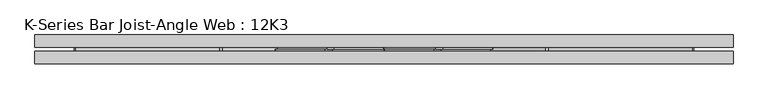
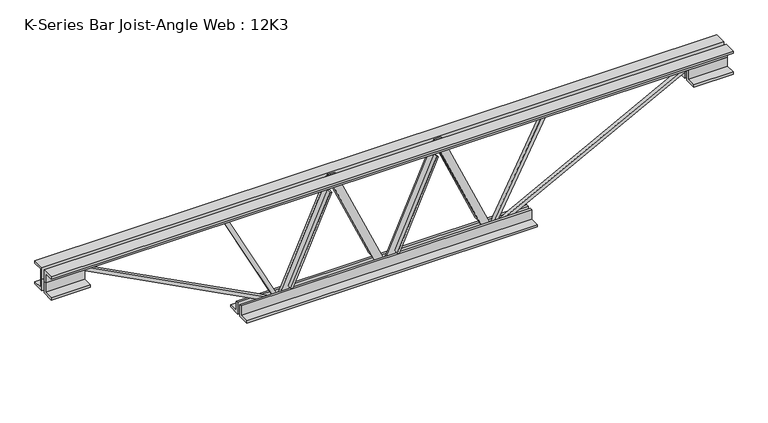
"""IFC4 building model written with IfcOpenShell, lengths in millimetres: beam geometry, K-Series Bar Joist-Angle Web : 12K3."""

from ifc_helpers import new_model, si_unit, frame, origin, place, context, project, spatial, polyline, outline, extrude, faceted_brep, source, transform, mapped, element, save


def k_series_bar_joist_angle_web_12k3_ae5ab345(model_context):
    return source(origin(), model_context, "Body", "SolidModel", [
        extrude(outline(polyline([(-4.7625, 4.7625), (-4.7625, 0.0), (-17.4625, 0.0), (-17.4625, 4.7625), (-4.7625, 4.7625)])), frame((247.3227836, 0.0, -114.3), z_axis=(-0.4073417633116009, 0.0, 0.9132758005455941), x_axis=(0.0, -1.0, 0.0)), (0.0, 0.0, 1.0), 250.3077382),
        extrude(outline(polyline([(-149.225, 275.43125), (-130.175, 275.43125), (-130.175, 275.2623726), (149.225, 150.6436226), (149.225, 131.7625), (130.175, 131.7625), (130.175, 138.2813774), (-149.225, 262.9001274), (-149.225, 275.43125)])), frame((0.0, 0.0, 0.0), z_axis=(0.0, 1.0, 0.0), x_axis=(0.0, 0.0, 1.0)), (0.0, 0.0, 1.0), 4.7625),
        faceted_brep([(0.79375, 0.0, -130.175), (0.79375, 0.0, -149.225), (0.79375, -4.7625, -149.225), (0.79375, -4.7625, -130.175), (0.9626274, 0.0, -130.175), (125.5813774, 0.0, 149.225), (144.4625, 0.0, 149.225), (144.4625, 0.0, 130.175), (137.9436226, 0.0, 130.175), (13.3248726, 0.0, -149.225), (13.3248726, -4.7625, -149.225), (28.9022164, -4.7625, -114.3), (24.5527404, -4.7625, -112.3600349), (126.5135358, -4.7625, 116.2399651), (130.8630118, -4.7625, 114.3), (137.9436226, -4.7625, 130.175), (144.4625, -4.7625, 130.175), (144.4625, -4.7625, 149.225), (125.5813774, -4.7625, 149.225), (0.9626274, -4.7625, -130.175), (130.8630118, -17.4625, 114.3), (28.9022164, -17.4625, -114.3), (24.5527404, -17.4625, -112.3600349), (126.5135358, -17.4625, 116.2399651)], [[[0, 1, 2, 3]], [[1, 0, 4, 5, 6, 7, 8, 9]], [[2, 1, 9, 10]], [[3, 2, 10, 11, 12, 13, 14, 15, 16, 17, 18, 19]], [[0, 3, 19, 4]], [[9, 8, 15, 14, 20, 21, 11, 10]], [[5, 4, 19, 18]], [[7, 6, 17, 16]], [[8, 7, 16, 15]], [[6, 5, 18, 17]], [[21, 22, 12, 11]], [[20, 14, 13, 23]], [[22, 21, 20, 23]], [[12, 22, 23, 13]]]),
        extrude(outline(polyline([(-4.7625, 4.7625), (-4.7625, 0.0), (-17.4625, 0.0), (-17.4625, 4.7625), (-4.7625, 4.7625)])), frame((-28.9022164, 0.0, -114.3), z_axis=(-0.4073417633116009, 0.0, 0.9132758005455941), x_axis=(0.0, -1.0, 0.0)), (0.0, 0.0, 1.0), 250.3077382),
        extrude(outline(polyline([(-149.225, -0.79375), (-130.175, -0.79375), (-130.175, -0.9626274), (149.225, -125.5813774), (149.225, -144.4625), (130.175, -144.4625), (130.175, -137.9436226), (-149.225, -13.3248726), (-149.225, -0.79375)])), frame((0.0, 0.0, 0.0), z_axis=(0.0, 1.0, 0.0), x_axis=(0.0, 0.0, 1.0)), (0.0, 0.0, 1.0), 4.7625),
        faceted_brep([(-275.43125, 0.0, -130.175), (-275.43125, 0.0, -149.225), (-275.43125, -4.7625, -149.225), (-275.43125, -4.7625, -130.175), (-275.2623726, 0.0, -130.175), (-150.6436226, 0.0, 149.225), (-131.7625, 0.0, 149.225), (-131.7625, 0.0, 130.175), (-138.2813774, 0.0, 130.175), (-262.9001274, 0.0, -149.225), (-262.9001274, -4.7625, -149.225), (-247.3227836, -4.7625, -114.3), (-251.6722596, -4.7625, -112.3600349), (-149.7114642, -4.7625, 116.2399651), (-145.3619882, -4.7625, 114.3), (-138.2813774, -4.7625, 130.175), (-131.7625, -4.7625, 130.175), (-131.7625, -4.7625, 149.225), (-150.6436226, -4.7625, 149.225), (-275.2623726, -4.7625, -130.175), (-145.3619882, -17.4625, 114.3), (-247.3227836, -17.4625, -114.3), (-251.6722596, -17.4625, -112.3600349), (-149.7114642, -17.4625, 116.2399651)], [[[0, 1, 2, 3]], [[1, 0, 4, 5, 6, 7, 8, 9]], [[2, 1, 9, 10]], [[3, 2, 10, 11, 12, 13, 14, 15, 16, 17, 18, 19]], [[0, 3, 19, 4]], [[9, 8, 15, 14, 20, 21, 11, 10]], [[5, 4, 19, 18]], [[7, 6, 17, 16]], [[8, 7, 16, 15]], [[6, 5, 18, 17]], [[21, 22, 12, 11]], [[20, 14, 13, 23]], [[22, 21, 20, 23]], [[12, 22, 23, 13]]]),
        extrude(outline(polyline([(4.7625, 152.4), (36.5125, 152.4), (36.5125, 146.05), (11.1125, 146.05), (11.1125, 120.65), (4.7625, 120.65), (4.7625, 152.4)])), frame((-885.03125, 0.0, 0.0), z_axis=(1.0, 0.0, 0.0), x_axis=(0.0, 1.0, 0.0)), (0.0, 0.0, 1.0), 1770.0625),
        extrude(outline(polyline([(-4.7625, 152.4), (-4.7625, 120.65), (-11.1125, 120.65), (-11.1125, 146.05), (-36.5125, 146.05), (-36.5125, 152.4), (-4.7625, 152.4)])), frame((-885.03125, 0.0, 0.0), z_axis=(1.0, 0.0, 0.0), x_axis=(0.0, 1.0, 0.0)), (0.0, 0.0, 1.0), 1770.0625),
        extrude(outline(polyline([(-4.7625, 88.9), (-36.5125, 88.9), (-36.5125, 95.25), (-11.1125, 95.25), (-11.1125, 120.65), (-4.7625, 120.65), (-4.7625, 88.9)])), frame((-885.03125, 0.0, 0.0), z_axis=(1.0, 0.0, 0.0), x_axis=(0.0, 1.0, 0.0)), (0.0, 0.0, 1.0), 101.6),
        extrude(outline(polyline([(36.5125, 88.9), (4.7625, 88.9), (4.7625, 120.65), (11.1125, 120.65), (11.1125, 95.25), (36.5125, 95.25), (36.5125, 88.9)])), frame((-885.03125, 0.0, 0.0), z_axis=(1.0, 0.0, 0.0), x_axis=(0.0, 1.0, 0.0)), (0.0, 0.0, 1.0), 101.6),
        extrude(outline(polyline([(4.7625, 88.9), (4.7625, 120.65), (11.1125, 120.65), (11.1125, 95.25), (36.5125, 95.25), (36.5125, 88.9), (4.7625, 88.9)])), frame((783.43125, 0.0, 0.0), z_axis=(1.0, 0.0, 0.0), x_axis=(0.0, 1.0, 0.0)), (0.0, 0.0, 1.0), 101.6),
        extrude(outline(polyline([(-4.7625, 88.9), (-36.5125, 88.9), (-36.5125, 95.25), (-11.1125, 95.25), (-11.1125, 120.65), (-4.7625, 120.65), (-4.7625, 88.9)])), frame((783.43125, 0.0, 0.0), z_axis=(1.0, 0.0, 0.0), x_axis=(0.0, 1.0, 0.0)), (0.0, 0.0, 1.0), 101.6),
        extrude(outline(polyline([(4.7625, -152.4), (4.7625, -120.65), (11.1125, -120.65), (11.1125, -146.05), (36.5125, -146.05), (36.5125, -152.4), (4.7625, -152.4)])), frame((-377.03125, 0.0, 0.0), z_axis=(1.0, 0.0, 0.0), x_axis=(0.0, 1.0, 0.0)), (0.0, 0.0, 1.0), 754.0625),
        extrude(outline(polyline([(-4.7625, -152.4), (-36.5125, -152.4), (-36.5125, -146.05), (-11.1125, -146.05), (-11.1125, -120.65), (-4.7625, -120.65), (-4.7625, -152.4)])), frame((-377.03125, 0.0, 0.0), z_axis=(1.0, 0.0, 0.0), x_axis=(0.0, 1.0, 0.0)), (0.0, 0.0, 1.0), 754.0625),
        extrude(outline(polyline([(4.7625, 4.7625), (4.7625, -4.7625), (-4.7625, -4.7625), (-4.7625, 4.7625), (4.7625, 4.7625)])), frame((275.43125, 0.0, -146.05), z_axis=(0.45776647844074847, 0.0, 0.8890724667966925), x_axis=(0.0, -1.0, 0.0)), (0.0, 0.0, 1.0), 299.9755475),
        extrude(outline(polyline([(4.7625, 4.7625), (4.7625, -4.7625), (-4.7625, -4.7625), (-4.7625, 4.7625), (4.7625, 4.7625)])), frame((-275.43125, 0.0, -146.05), z_axis=(-0.4577664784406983, 0.0, 0.8890724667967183), x_axis=(0.0, -1.0, 0.0)), (0.0, 0.0, 1.0), 299.9755475),
        extrude(outline(polyline([(0.0, -9.525), (0.0, 0.0), (573.7533355, 0.0), (573.7533355, -9.525), (0.0, -9.525)])), frame((785.6450214, -4.7625, 116.4332925), z_axis=(-0.46483389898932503, 0.0, 0.8853979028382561), x_axis=(-0.8853979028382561, 0.0, -0.46483389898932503)), (0.0, 0.0, 1.0), 9.525),
        extrude(outline(polyline([(0.0, -9.525), (0.0, 0.0), (573.7533355, 0.0), (573.7533355, -9.525), (0.0, -9.525)])), frame((-785.6450214, 4.7625, 116.4332925), z_axis=(0.46483389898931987, 0.0, 0.8853979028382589), x_axis=(0.8853979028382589, 0.0, -0.46483389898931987)), (0.0, 0.0, 1.0), 9.525),
    ])


if __name__ == "__main__":
    model = new_model("IFC4")
    model_context = context("Model", 3, world=origin())
    ifc_project = project(units=[si_unit("LENGTHUNIT", "METRE", prefix="MILLI")], contexts=[model_context])
    site = spatial("IfcSite", under=ifc_project)
    building = spatial("IfcBuilding", under=site)
    placement = place(None, origin())
    k_series_bar_joist_angle_web_12k3_shape = k_series_bar_joist_angle_web_12k3_ae5ab345(model_context)
    element("IfcBeam", 1, ObjectType="K-Series Bar Joist-Angle Web : 12K3", at=placement, inside=building, context=model_context, shape_type="MappedRepresentation", body=[
        mapped(k_series_bar_joist_angle_web_12k3_shape, transform((0.0, 0.0, 0.0), x_axis=(1.0, 0.0, 0.0), y_axis=(0.0, 1.0, 0.0), z_axis=(0.0, 0.0, 1.0))),
    ])
    save(model, "model.ifc")
